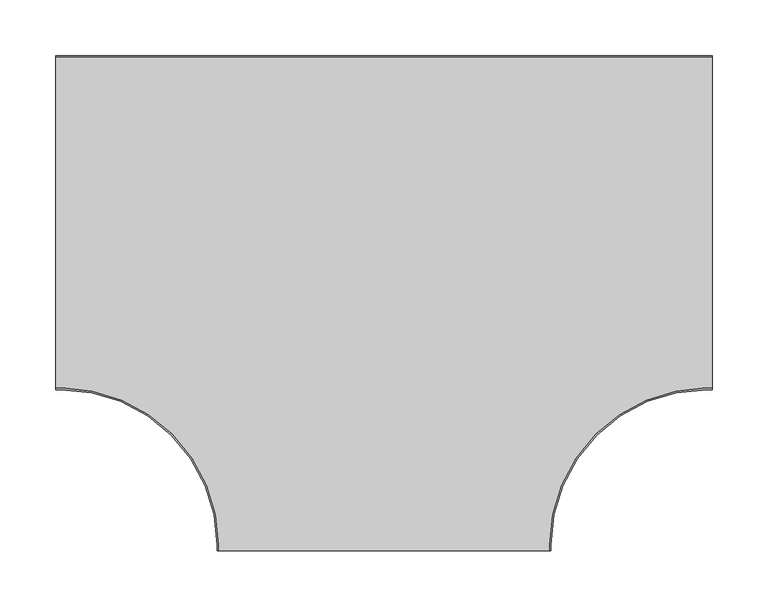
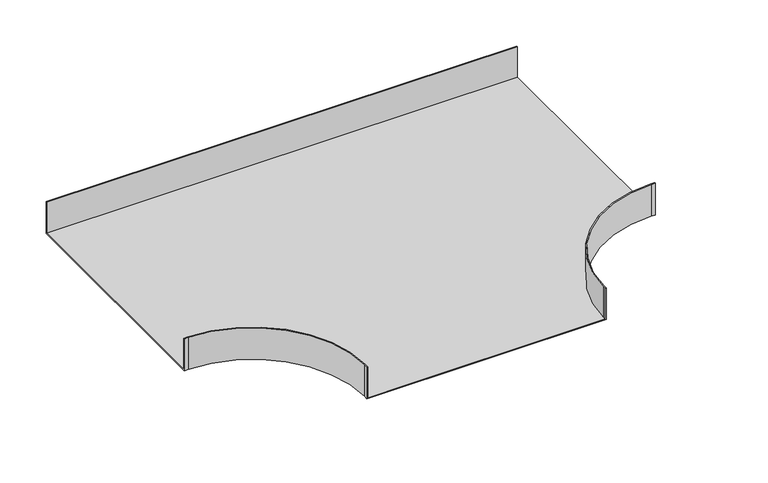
"""IFC4 building model written with IfcOpenShell, lengths in millimetres: cable carrier fitting geometry, BAKS_Horizontal tee radius : TKPJ_H42."""

import ifcopenshell
import ifcopenshell.guid

model = None  # the IFC model being written
_history = None  # IfcOwnerHistory: only IFC2X3 demands one
_inside = {}  # id of a spatial element -> (the spatial element, [elements in it])
_under = {}  # id of a project, library or spatial element -> (it, [spatial elements below it])
_declared = {}  # id of a project -> (the project, [libraries it declares])
_typed = {}  # id of a type object -> (the type object, [elements of that type])
_made_of = {}  # id of a material, layer set ... -> (it, [elements and type objects made of it])


def new_model(schema):
    """Start an empty IFC model of exactly this schema.

    Asked for "IFC4X3", IfcOpenShell would pick the latest addendum, in which some entities
    have other attributes; the version numbers below select the first issue.
    IFC2X3 requires an IfcOwnerHistory on every rooted entity: one is made here for all.
    """
    global model, _history
    if schema == "IFC4X3":
        model = ifcopenshell.file(schema_version=(4, 3, 0, 0))
    else:
        model = ifcopenshell.file(schema=schema)
    _inside.clear()
    _under.clear()
    _declared.clear()
    _typed.clear()
    _made_of.clear()
    _history = None
    if model.schema == "IFC2X3":
        org = make("IfcOrganization", Name="unknown")
        user = make(
            "IfcPersonAndOrganization",
            ThePerson=make("IfcPerson", FamilyName="unknown"),
            TheOrganization=org,
        )
        app = make(
            "IfcApplication",
            ApplicationDeveloper=org,
            Version="unknown",
            ApplicationFullName="unknown",
            ApplicationIdentifier="unknown",
        )
        _history = make(
            "IfcOwnerHistory",
            OwningUser=user,
            OwningApplication=app,
            ChangeAction="ADDED",
            CreationDate=0,
        )
    return model


def make(cls, **values):
    """One entity of the class cls with the attributes given. An attribute that is None is left unset."""
    return model.create_entity(
        cls, **{name: value for name, value in values.items() if value is not None}
    )


def rooted(cls, **values):
    """An entity with a GlobalId (a new one), such as an element, a storey or a relation."""
    return make(cls, GlobalId=ifcopenshell.guid.new(), OwnerHistory=_history, **values)


def si_unit(unit_type, name, prefix=None):
    """IfcSIUnit, for example si_unit("LENGTHUNIT", "METRE", prefix="MILLI")."""
    return make("IfcSIUnit", UnitType=unit_type, Prefix=prefix, Name=name)


def assignment(units):
    """IfcUnitAssignment: the units of a project."""
    return None if units is None else make("IfcUnitAssignment", Units=units)


def point(xyz):
    """IfcCartesianPoint."""
    return None if xyz is None else make("IfcCartesianPoint", Coordinates=xyz)


def direction(xyz):
    """IfcDirection."""
    return None if xyz is None else make("IfcDirection", DirectionRatios=xyz)


def frame(location, z_axis=None, x_axis=None):
    """IfcAxis2Placement3D, a coordinate frame: its origin and axes. An axis left out is left unset."""
    return make(
        "IfcAxis2Placement3D",
        Location=point(location),
        Axis=direction(z_axis),
        RefDirection=direction(x_axis),
    )


def origin():
    """The frame at (0, 0, 0) with its axes left unset."""
    return frame((0.0, 0.0, 0.0))


def place(relative_to, where):
    """IfcLocalPlacement: puts the frame where relative to a parent placement (None: the world)."""
    return make(
        "IfcLocalPlacement", PlacementRelTo=relative_to, RelativePlacement=where
    )


def context(
    kind, dimensions, precision=None, world=None, true_north=None, identifier=None
):
    """IfcGeometricRepresentationContext, for example the 3D "Model" context."""
    return make(
        "IfcGeometricRepresentationContext",
        ContextIdentifier=identifier,
        ContextType=kind,
        CoordinateSpaceDimension=dimensions,
        Precision=precision,
        WorldCoordinateSystem=world,
        TrueNorth=true_north,
    )


def project(units=None, contexts=None):
    """IfcProject with its units and contexts."""
    return rooted(
        "IfcProject",
        Name="project",
        RepresentationContexts=contexts,
        UnitsInContext=assignment(units),
    )


def spatial(cls, under=None, at=None, **own):
    """A site, building, storey or space (cls), placed at a placement, below another one or the project."""
    s = rooted(cls, ObjectPlacement=at, **own)
    if under is not None:
        _under.setdefault(under.id(), (under, []))[1].append(s)
    return s


def polyline(points):
    """IfcPolyline through the points."""
    return make("IfcPolyline", Points=[point(p) for p in points])


def circle_curve(where, radius):
    """IfcCircle in the frame where."""
    return make("IfcCircle", Position=where, Radius=radius)


def shape(context_of_items, identifier, shape_type, items):
    """IfcShapeRepresentation: the items that make up one representation, for example the "Body"."""
    return make(
        "IfcShapeRepresentation",
        ContextOfItems=context_of_items,
        RepresentationIdentifier=identifier,
        RepresentationType=shape_type,
        Items=items,
    )


def source(mapping_origin, context_of_items, identifier, shape_type, items):
    """IfcRepresentationMap: a shape defined once, which mapped items show again and again."""
    return make(
        "IfcRepresentationMap",
        MappingOrigin=mapping_origin,
        MappedRepresentation=shape(context_of_items, identifier, shape_type, items),
    )


def transform(
    local_origin,
    x_axis=None,
    y_axis=None,
    z_axis=None,
    scale=None,
    scale2=None,
    scale3=None,
    uniform=True,
):
    """IfcCartesianTransformationOperator3D, or its non-uniform kind. x_axis, y_axis, z_axis: its Axis1, 2, 3."""
    if uniform:
        return make(
            "IfcCartesianTransformationOperator3D",
            Axis1=direction(x_axis),
            Axis2=direction(y_axis),
            LocalOrigin=point(local_origin),
            Scale=scale,
            Axis3=direction(z_axis),
        )
    return make(
        "IfcCartesianTransformationOperator3DnonUniform",
        Axis1=direction(x_axis),
        Axis2=direction(y_axis),
        LocalOrigin=point(local_origin),
        Scale=scale,
        Axis3=direction(z_axis),
        Scale2=scale2,
        Scale3=scale3,
    )


def mapped(mapping_source, mapping_target):
    """IfcMappedItem: shows the shape of a source again, moved by a transform."""
    return make(
        "IfcMappedItem", MappingSource=mapping_source, MappingTarget=mapping_target
    )


def made_of(thing, what):
    """Note that an element or type object is made of a material, layer set ...; save() writes the relation."""
    if what is not None:
        _made_of.setdefault(what.id(), (what, []))[1].append(thing)
    return thing


def element(
    cls,
    number,
    at=None,
    inside=None,
    cuts=None,
    type_object=None,
    material=None,
    context=None,
    identifier="Body",
    shape_type=None,
    held_by="IfcProductDefinitionShape",
    body=None,
    shapes=None,
    **own,
):
    """One element of the class cls, such as IfcWall. Its Tag is "e" and its number.

    at: its placement. inside: the storey or other place that contains it. cuts: it is an
    opening in that element (IfcRelVoidsElement). A single representation is given by context,
    identifier, shape_type and body (its items); several are given by shapes. held_by: the class
    of the entity that holds the representations. save() writes the other relations.
    """
    e = rooted(cls, Tag="e%d" % number, ObjectPlacement=at, **own)
    if body is not None:
        shapes = [shape(context, identifier, shape_type, body)]
    if shapes is not None:
        e.Representation = make(held_by, Representations=shapes)
    if inside is not None:
        _inside.setdefault(inside.id(), (inside, []))[1].append(e)
    if cuts is not None:
        rooted(
            "IfcRelVoidsElement", RelatingBuildingElement=cuts, RelatedOpeningElement=e
        )
    if type_object is not None:
        _typed.setdefault(type_object.id(), (type_object, []))[1].append(e)
    return made_of(e, material)


def aggregate(whole, parts):
    """IfcRelAggregates: a whole, such as a stair, and the parts it consists of."""
    return rooted("IfcRelAggregates", RelatingObject=whole, RelatedObjects=parts)


def save(model, path):
    """Write the relations noted so far, then the file.

    IfcRelAggregates (storeys below a building ...), IfcRelContainedInSpatialStructure (elements
    in a storey), IfcRelDefinesByType, IfcRelAssociatesMaterial and IfcRelDeclares: one each for
    every whole, place, type object, material and project.
    """
    for whole, parts in _under.values():
        aggregate(whole, parts)
    for where, things in _inside.values():
        rooted(
            "IfcRelContainedInSpatialStructure",
            RelatedElements=things,
            RelatingStructure=where,
        )
    for kind, things in _typed.values():
        rooted("IfcRelDefinesByType", RelatedObjects=things, RelatingType=kind)
    for what, things in _made_of.values():
        rooted("IfcRelAssociatesMaterial", RelatedObjects=things, RelatingMaterial=what)
    for by, libraries in _declared.values():
        rooted("IfcRelDeclares", RelatingContext=by, RelatedDefinitions=libraries)
    model.write(path)


def plane_surface(at):
    """IfcPlane: the flat surface through the origin of the frame at, square to its z axis."""
    return make("IfcPlane", Position=at)


def cylinder_surface(at, radius):
    """IfcCylindricalSurface: all points at the distance radius from the z axis of the frame at."""
    return make("IfcCylindricalSurface", Position=at, Radius=radius)


def revolved_surface(curve, axis_point, axis_direction):
    """IfcSurfaceOfRevolution: the curve turned about the line through axis_point along axis_direction."""
    return make(
        "IfcSurfaceOfRevolution",
        SweptCurve=make("IfcArbitraryOpenProfileDef", ProfileType="CURVE", Curve=curve),
        AxisPosition=make("IfcAxis1Placement", Location=point(axis_point), Axis=direction(axis_direction)),
    )


def advanced_brep(points, edges, surfaces, faces):
    """IfcAdvancedBrep: a solid bounded by faces that lie on surfaces and meet in shared edges.

    An edge is (start, end): straight between two places in points (the first is 0);
    or (start, end, curve); or (start, end, curve, False) where it runs against its curve.
    A face is (place in surfaces, loops), or (place, loops, False) where it looks against
    its surface's normal. A loop lists edges by number (the first is 1), with a minus sign
    where the edge is run from its end to its start. The first loop is the outer one.
    """
    corners = [point(p) for p in points]
    vertices = [make("IfcVertexPoint", VertexGeometry=c) for c in corners]
    made = []
    for start, end, *more in edges:
        made.append(
            make(
                "IfcEdgeCurve",
                EdgeStart=vertices[start],
                EdgeEnd=vertices[end],
                EdgeGeometry=more[0] if more else make("IfcPolyline", Points=[corners[start], corners[end]]),
                SameSense=more[1] if len(more) > 1 else True,
            )
        )
    hull = []
    for where, loops, *sense in faces:
        bounds = []
        for j, loop in enumerate(loops):
            ring = [make("IfcOrientedEdge", EdgeElement=made[abs(k) - 1], Orientation=k > 0) for k in loop]
            bounds.append(
                make(
                    "IfcFaceOuterBound" if j == 0 else "IfcFaceBound",
                    Bound=make("IfcEdgeLoop", EdgeList=ring),
                    Orientation=True,
                )
            )
        hull.append(make("IfcAdvancedFace", Bounds=bounds, FaceSurface=surfaces[where], SameSense=sense[0] if sense else True))
    return make("IfcAdvancedBrep", Outer=make("IfcClosedShell", CfsFaces=hull))


def cable_carrier_fitting_fd90c8b5(model_context):
    return source(origin(), model_context, "Body", "AdvancedBrep", [
        advanced_brep(
        [(-150.0, -290.0, 21.0), (-150.0, -295.0, 21.0), (-149.0, -295.0, 21.0), (-149.0, -290.0, 21.0), (-290.0, -148.5008834, 21.0), (-295.0, -149.0, 21.0), (-295.0, -150.0, 21.0), (-290.0, -150.0, 21.0), (150.0, -290.0, 21.0), (290.0, -150.0, 21.0), (295.0, -150.0, 21.0), (295.0, -149.0, 21.0), (290.0, -148.5008834, 21.0), (149.0, -290.0, 21.0), (149.0, -295.0, 21.0), (150.0, -295.0, 21.0), (295.0, 150.0, 21.0), (-295.0, 150.0, 21.0), (-295.0, 149.0, 21.0), (295.0, 149.0, 21.0), (-150.0, -290.0, -21.0), (-290.0, -150.0, -21.0), (-295.0, -150.0, -21.0), (-295.0, 150.0, -21.0), (295.0, 150.0, -21.0), (295.0, -150.0, -21.0), (290.0, -150.0, -21.0), (150.0, -290.0, -21.0), (150.0, -295.0, -21.0), (-150.0, -295.0, -21.0), (-150.0, -290.0, -20.0), (149.0, -295.0, -20.0), (-149.0, -295.0, -20.0), (-149.0, -290.0, -20.0), (-290.0, -148.5008834, -20.0), (-295.0, -149.0, -20.0), (-295.0, 149.0, -20.0), (-290.0, -150.0, -20.0), (150.0, -290.0, -20.0), (290.0, -150.0, -20.0), (295.0, 149.0, -20.0), (295.0, -149.0, -20.0), (290.0, -148.5008834, -20.0), (149.0, -290.0, -20.0)],
        [
            (0, 1),
            (1, 2),
            (2, 3),
            (3, 4, circle_curve(frame((-290.5, -290.0, 21.0), z_axis=(0.0, 0.0, 1.0), x_axis=(1.0, 0.0, 0.0)), 141.5)),
            (4, 5),
            (5, 6),
            (6, 7),
            (7, 0, circle_curve(frame((-290.0, -290.0, 21.0), z_axis=(0.0, 0.0, -1.0), x_axis=(1.0, 0.0, 0.0)), 140.0)),
            (8, 9, circle_curve(frame((290.0, -290.0, 21.0), z_axis=(0.0, 0.0, -1.0), x_axis=(1.0, 0.0, 0.0)), 140.0)),
            (9, 10),
            (10, 11),
            (11, 12),
            (12, 13, circle_curve(frame((290.5, -290.0, 21.0), z_axis=(0.0, 0.0, 1.0), x_axis=(1.0, 0.0, 0.0)), 141.5)),
            (13, 14),
            (14, 15),
            (15, 8),
            (16, 17),
            (17, 18),
            (18, 19),
            (19, 16),
            (20, 21, circle_curve(frame((-290.0, -290.0, -21.0), z_axis=(0.0, 0.0, 1.0), x_axis=(1.0, 0.0, 0.0)), 140.0)),
            (21, 22),
            (22, 23),
            (23, 24),
            (24, 25),
            (25, 26),
            (26, 27, circle_curve(frame((290.0, -290.0, -21.0), z_axis=(0.0, 0.0, 1.0), x_axis=(1.0, 0.0, 0.0)), 140.0)),
            (27, 28),
            (28, 29),
            (29, 20),
            (29, 1),
            (0, 30),
            (30, 20),
            (28, 15),
            (14, 31),
            (31, 32),
            (32, 2),
            (32, 33),
            (33, 3),
            (33, 34, circle_curve(frame((-290.5, -290.0, -20.0), z_axis=(0.0, 0.0, 1.0), x_axis=(1.0, 0.0, 0.0)), 141.5)),
            (34, 4),
            (34, 35),
            (35, 5),
            (35, 36),
            (36, 18),
            (17, 23),
            (22, 6),
            (21, 37),
            (37, 7),
            (8, 38),
            (38, 27),
            (26, 39),
            (39, 9),
            (25, 10),
            (24, 16),
            (19, 40),
            (40, 41),
            (41, 11),
            (41, 42),
            (42, 12),
            (42, 43, circle_curve(frame((290.5, -290.0, -20.0), z_axis=(0.0, 0.0, 1.0), x_axis=(1.0, 0.0, 0.0)), 141.5)),
            (43, 13),
            (43, 31),
            (36, 40),
        ],
        [
            plane_surface(frame((-150.0, -290.0, 21.0), z_axis=(0.0, 0.0, 1.0), x_axis=(0.0, -1.0, 0.0))),
            plane_surface(frame((-150.0, -290.0, -21.0), z_axis=(0.0, 0.0, -1.0), x_axis=(0.0, 1.0, 0.0))),
            plane_surface(frame((-150.0, -290.0, 21.0), z_axis=(-1.0, 0.0, 0.0), x_axis=(0.0, 0.0, -1.0))),
            plane_surface(frame((-150.0, -295.0, 21.0), z_axis=(0.0, -1.0, 0.0), x_axis=(0.0, 0.0, -1.0))),
            plane_surface(frame((-149.0, -295.0, 21.0), z_axis=(1.0, 0.0, 0.0), x_axis=(0.0, 0.0, -1.0))),
            cylinder_surface(frame((-290.5, -290.0, -21.0), z_axis=(0.0, 0.0, 1.0), x_axis=(1.0, 0.0, 0.0)), 141.5),
            plane_surface(frame((-290.0, -148.5008834, 21.0), z_axis=(-0.09932965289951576, 0.9950545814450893, 0.0), x_axis=(0.0, 0.0, -1.0))),
            plane_surface(frame((-295.0, -149.0, 21.0), z_axis=(-1.0, 0.0, 0.0), x_axis=(0.0, 0.0, -1.0))),
            plane_surface(frame((-295.0, -150.0, 21.0), z_axis=(0.0, -1.0, 0.0), x_axis=(0.0, 0.0, -1.0))),
            revolved_surface(polyline([(-150.0, -290.0, -21.0), (-150.0, -290.0, 21.0)]), (-290.0, -290.0, -21.0), (0.0, 0.0, -1.0)),
            revolved_surface(polyline([(430.0, -290.0, -21.0), (430.0, -290.0, 21.0)]), (290.0, -290.0, 0.0), (0.0, 0.0, -1.0)),
            plane_surface(frame((290.0, -150.0, 21.0), z_axis=(0.0, -1.0, 0.0), x_axis=(0.0, 0.0, -1.0))),
            plane_surface(frame((295.0, -150.0, 21.0), z_axis=(1.0, 0.0, 0.0), x_axis=(0.0, 0.0, -1.0))),
            plane_surface(frame((295.0, -149.0, 21.0), z_axis=(0.09932965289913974, 0.9950545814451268, 0.0), x_axis=(0.0, 0.0, -1.0))),
            cylinder_surface(frame((290.5, -290.0, 0.0), z_axis=(0.0, 0.0, 1.0), x_axis=(1.0, 0.0, 0.0)), 141.5),
            plane_surface(frame((149.0, -290.0, 21.0), z_axis=(-1.0, 0.0, 0.0), x_axis=(0.0, 0.0, -1.0))),
            plane_surface(frame((150.0, -295.0, 21.0), z_axis=(1.0, 0.0, 0.0), x_axis=(0.0, 0.0, -1.0))),
            plane_surface(frame((295.0, 150.0, 21.0), z_axis=(0.0, 1.0, 0.0), x_axis=(0.0, 0.0, -1.0))),
            plane_surface(frame((-295.0, 149.0, 21.0), z_axis=(0.0, -1.0, 0.0), x_axis=(0.0, 0.0, -1.0))),
            plane_surface(frame((-150.0, -290.0, -20.0), z_axis=(0.0, 0.0, 1.0), x_axis=(0.0, -1.0, 0.0))),
        ],
        [
            (0, [[1, 2, 3, 4, 5, 6, 7, 8]]),
            (0, [[9, 10, 11, 12, 13, 14, 15, 16]]),
            (0, [[17, 18, 19, 20]]),
            (1, [[21, 22, 23, 24, 25, 26, 27, 28, 29, 30]]),
            (2, [[31, -1, 32, 33, -30]]),
            (3, [[-2, -31, -29, 34, -15, 35, 36, 37]]),
            (4, [[-3, -37, 38, 39]]),
            (5, [[-4, -39, 40, 41]]),
            (6, [[-5, -41, 42, 43]]),
            (7, [[-6, -43, 44, 45, -18, 46, -23, 47]]),
            (8, [[-7, -47, -22, 48, 49]]),
            (9, [[-8, -49, -48, -21, -33, -32]]),
            (10, [[-9, 50, 51, -27, 52, 53]]),
            (11, [[54, -10, -53, -52, -26]]),
            (12, [[-11, -54, -25, 55, -20, 56, 57, 58]]),
            (13, [[-12, -58, 59, 60]]),
            (14, [[-13, -60, 61, 62]]),
            (15, [[-14, -62, 63, -35]]),
            (16, [[-16, -34, -28, -51, -50]]),
            (17, [[-46, -17, -55, -24]]),
            (18, [[-19, -45, 64, -56]]),
            (19, [[-36, -63, -61, -59, -57, -64, -44, -42, -40, -38]]),
        ],
    ),
    ])


if __name__ == "__main__":
    model = new_model("IFC4")
    model_context = context("Model", 3, world=origin())
    ifc_project = project(units=[si_unit("LENGTHUNIT", "METRE", prefix="MILLI")], contexts=[model_context])
    site = spatial("IfcSite", under=ifc_project)
    building = spatial("IfcBuilding", under=site)
    placement = place(None, origin())
    cable_carrier_fitting_shape = cable_carrier_fitting_fd90c8b5(model_context)
    element("IfcCableCarrierFitting", 1, ObjectType="BAKS_Horizontal tee radius : TKPJ_H42", at=placement, inside=building, context=model_context, shape_type="MappedRepresentation", body=[
        mapped(cable_carrier_fitting_shape, transform((0.0, 0.0, 0.0), x_axis=(1.0, 0.0, 0.0), y_axis=(0.0, 1.0, 0.0), z_axis=(0.0, 0.0, 1.0))),
    ])
    save(model, "model.ifc")
